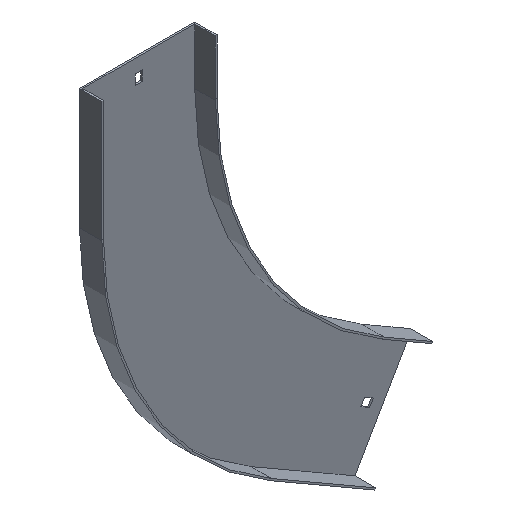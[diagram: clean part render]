
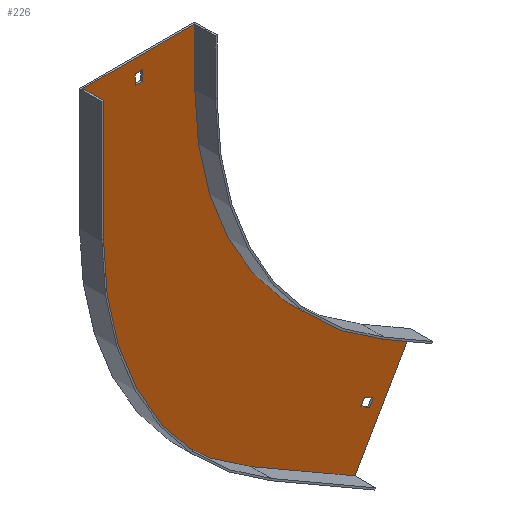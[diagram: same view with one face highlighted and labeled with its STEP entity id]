
A CAD part, isometric view. The second image highlights one B-rep face of the part: STEP entity #226.
In plain terms, the highlighted planar face has unit normal (0, -1, 0).
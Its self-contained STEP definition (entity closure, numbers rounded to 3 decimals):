
#18 = EDGE_LOOP ( 'NONE', ( #582, #485, #688, #633 ) ) ;
#21 = LINE ( 'NONE', #86, #220 ) ;
#25 = VECTOR ( 'NONE', #778, 1000. ) ;
#29 = LINE ( 'NONE', #653, #562 ) ;
#34 = CARTESIAN_POINT ( 'NONE',  ( -151.51, -1.5, -320.423 ) ) ;
#45 = EDGE_CURVE ( 'NONE', #723, #670, #439, .T. ) ;
#58 = CARTESIAN_POINT ( 'NONE',  ( -150., -1.5, -259.808 ) ) ;
#66 = ORIENTED_EDGE ( 'NONE', *, *, #45, .F. ) ;
#67 = ORIENTED_EDGE ( 'NONE', *, *, #146, .F. ) ;
#72 = ORIENTED_EDGE ( 'NONE', *, *, #125, .F. ) ;
#74 = VERTEX_POINT ( 'NONE', #444 ) ;
#76 = LINE ( 'NONE', #553, #861 ) ;
#86 = CARTESIAN_POINT ( 'NONE',  ( 0., -1.5, 29. ) ) ;
#88 = DIRECTION ( 'NONE',  ( 0., -1., 0. ) ) ;
#99 = EDGE_CURVE ( 'NONE', #172, #780, #635, .T. ) ;
#112 = DIRECTION ( 'NONE',  ( 0., 0., -1. ) ) ;
#117 = CIRCLE ( 'NONE', #233, 300. ) ;
#119 = CARTESIAN_POINT ( 'NONE',  ( 0., -1.5, 38. ) ) ;
#121 = CARTESIAN_POINT ( 'NONE',  ( -300., -1.5, 50. ) ) ;
#122 = ORIENTED_EDGE ( 'NONE', *, *, #99, .F. ) ;
#125 = EDGE_CURVE ( 'NONE', #542, #662, #773, .T. ) ;
#131 = DIRECTION ( 'NONE',  ( 0., 1., 0. ) ) ;
#139 = DIRECTION ( 'NONE',  ( 0.866, 0., -0.5 ) ) ;
#140 = EDGE_CURVE ( 'NONE', #699, #758, #330, .T. ) ;
#143 = LINE ( 'NONE', #427, #322 ) ;
#144 = EDGE_LOOP ( 'NONE', ( #158, #516, #214, #492 ) ) ;
#146 = EDGE_CURVE ( 'NONE', #670, #172, #314, .T. ) ;
#149 = CARTESIAN_POINT ( 'NONE',  ( -400., -1.5, -57.735 ) ) ;
#153 = DIRECTION ( 'NONE',  ( 1., 0., 0. ) ) ;
#158 = ORIENTED_EDGE ( 'NONE', *, *, #674, .F. ) ;
#170 = EDGE_CURVE ( 'NONE', #388, #802, #76, .T. ) ;
#172 = VERTEX_POINT ( 'NONE', #213 ) ;
#176 = CARTESIAN_POINT ( 'NONE',  ( -353.25, -1.5, 0. ) ) ;
#177 = VECTOR ( 'NONE', #495, 1000. ) ;
#213 = CARTESIAN_POINT ( 'NONE',  ( -156.699, -1.5, -371.41 ) ) ;
#214 = ORIENTED_EDGE ( 'NONE', *, *, #170, .F. ) ;
#219 = LINE ( 'NONE', #751, #685 ) ;
#220 = VECTOR ( 'NONE', #352, 1000. ) ;
#221 = CARTESIAN_POINT ( 'NONE',  ( -150., -1.5, -259.808 ) ) ;
#223 = DIRECTION ( 'NONE',  ( -0.866, 0., 0.5 ) ) ;
#226 = ADVANCED_FACE ( 'NONE', ( #442, #640, #283 ), #690, .T. ) ;
#233 = AXIS2_PLACEMENT_3D ( 'NONE', #309, #784, #581 ) ;
#237 = VERTEX_POINT ( 'NONE', #564 ) ;
#240 = CARTESIAN_POINT ( 'NONE',  ( -173.375, -1.5, -300.294 ) ) ;
#247 = LINE ( 'NONE', #240, #795 ) ;
#256 = EDGE_CURVE ( 'NONE', #74, #388, #432, .T. ) ;
#271 = EDGE_CURVE ( 'NONE', #758, #791, #29, .T. ) ;
#273 = DIRECTION ( 'NONE',  ( 0., 0., 1. ) ) ;
#280 = ORIENTED_EDGE ( 'NONE', *, *, #500, .F. ) ;
#283 = FACE_BOUND ( 'NONE', #18, .T. ) ;
#291 = VECTOR ( 'NONE', #845, 1000. ) ;
#309 = CARTESIAN_POINT ( 'NONE',  ( 0., -1.5, 0. ) ) ;
#314 = LINE ( 'NONE', #593, #291 ) ;
#316 = EDGE_CURVE ( 'NONE', #519, #331, #353, .T. ) ;
#322 = VECTOR ( 'NONE', #421, 1000. ) ;
#326 = ORIENTED_EDGE ( 'NONE', *, *, #316, .F. ) ;
#328 = CARTESIAN_POINT ( 'NONE',  ( -140.466, -1.5, -319.294 ) ) ;
#330 = LINE ( 'NONE', #119, #547 ) ;
#331 = VERTEX_POINT ( 'NONE', #397 ) ;
#352 = DIRECTION ( 'NONE',  ( -1., 0., 0. ) ) ;
#353 = LINE ( 'NONE', #149, #746 ) ;
#388 = VERTEX_POINT ( 'NONE', #34 ) ;
#394 = CARTESIAN_POINT ( 'NONE',  ( -143.716, -1.5, -324.923 ) ) ;
#397 = CARTESIAN_POINT ( 'NONE',  ( -400., -1.5, 50. ) ) ;
#405 = EDGE_LOOP ( 'NONE', ( #406, #326, #280, #122, #67, #66, #774, #72 ) ) ;
#406 = ORIENTED_EDGE ( 'NONE', *, *, #605, .F. ) ;
#421 = DIRECTION ( 'NONE',  ( 0.5, 0., 0.866 ) ) ;
#427 = CARTESIAN_POINT ( 'NONE',  ( 32.909, -1.5, -19. ) ) ;
#432 = LINE ( 'NONE', #823, #820 ) ;
#439 = LINE ( 'NONE', #221, #177 ) ;
#442 = FACE_BOUND ( 'NONE', #144, .T. ) ;
#444 = CARTESIAN_POINT ( 'NONE',  ( -148.26, -1.5, -314.794 ) ) ;
#459 = CARTESIAN_POINT ( 'NONE',  ( -300., -1.5, 0. ) ) ;
#476 = CARTESIAN_POINT ( 'NONE',  ( -250., -1.5, -317.543 ) ) ;
#485 = ORIENTED_EDGE ( 'NONE', *, *, #271, .T. ) ;
#491 = AXIS2_PLACEMENT_3D ( 'NONE', #545, #131, #536 ) ;
#492 = ORIENTED_EDGE ( 'NONE', *, *, #256, .F. ) ;
#495 = DIRECTION ( 'NONE',  ( 0.866, 0., -0.5 ) ) ;
#499 = DIRECTION ( 'NONE',  ( -0.5, 0., -0.866 ) ) ;
#500 = EDGE_CURVE ( 'NONE', #780, #519, #747, .T. ) ;
#516 = ORIENTED_EDGE ( 'NONE', *, *, #552, .F. ) ;
#519 = VERTEX_POINT ( 'NONE', #672 ) ;
#529 = DIRECTION ( 'NONE',  ( 0., 0., 1. ) ) ;
#536 = DIRECTION ( 'NONE',  ( 0., 0., -1. ) ) ;
#542 = VERTEX_POINT ( 'NONE', #121 ) ;
#544 = CARTESIAN_POINT ( 'NONE',  ( -346.75, -1.5, 29. ) ) ;
#545 = CARTESIAN_POINT ( 'NONE',  ( -100., -1.5, -57.735 ) ) ;
#547 = VECTOR ( 'NONE', #646, 1000. ) ;
#552 = EDGE_CURVE ( 'NONE', #802, #777, #143, .T. ) ;
#553 = CARTESIAN_POINT ( 'NONE',  ( -176.625, -1.5, -305.923 ) ) ;
#556 = CARTESIAN_POINT ( 'NONE',  ( 0., -1.5, 0. ) ) ;
#562 = VECTOR ( 'NONE', #112, 1000. ) ;
#564 = CARTESIAN_POINT ( 'NONE',  ( -353.25, -1.5, 29. ) ) ;
#566 = CARTESIAN_POINT ( 'NONE',  ( -156.699, -1.5, -371.41 ) ) ;
#572 = EDGE_CURVE ( 'NONE', #791, #237, #21, .T. ) ;
#575 = AXIS2_PLACEMENT_3D ( 'NONE', #556, #88, #623 ) ;
#581 = DIRECTION ( 'NONE',  ( 0., 0., -1. ) ) ;
#582 = ORIENTED_EDGE ( 'NONE', *, *, #140, .T. ) ;
#593 = CARTESIAN_POINT ( 'NONE',  ( -105.949, -1.5, -283.509 ) ) ;
#605 = EDGE_CURVE ( 'NONE', #331, #542, #219, .T. ) ;
#623 = DIRECTION ( 'NONE',  ( 0., 0., -1. ) ) ;
#633 = ORIENTED_EDGE ( 'NONE', *, *, #721, .T. ) ;
#635 = LINE ( 'NONE', #566, #668 ) ;
#640 = FACE_OUTER_BOUND ( 'NONE', #405, .T. ) ;
#643 = VECTOR ( 'NONE', #529, 1000. ) ;
#646 = DIRECTION ( 'NONE',  ( 1., 0., 0. ) ) ;
#652 = CARTESIAN_POINT ( 'NONE',  ( -353.25, -1.5, 38. ) ) ;
#653 = CARTESIAN_POINT ( 'NONE',  ( -346.75, -1.5, 0. ) ) ;
#657 = LINE ( 'NONE', #176, #643 ) ;
#662 = VERTEX_POINT ( 'NONE', #459 ) ;
#668 = VECTOR ( 'NONE', #223, 1000. ) ;
#670 = VERTEX_POINT ( 'NONE', #850 ) ;
#672 = CARTESIAN_POINT ( 'NONE',  ( -400., -1.5, -57.735 ) ) ;
#674 = EDGE_CURVE ( 'NONE', #777, #74, #247, .T. ) ;
#685 = VECTOR ( 'NONE', #153, 1000. ) ;
#688 = ORIENTED_EDGE ( 'NONE', *, *, #572, .T. ) ;
#690 = PLANE ( 'NONE',  #575 ) ;
#699 = VERTEX_POINT ( 'NONE', #652 ) ;
#708 = EDGE_CURVE ( 'NONE', #662, #723, #117, .T. ) ;
#721 = EDGE_CURVE ( 'NONE', #237, #699, #657, .T. ) ;
#723 = VERTEX_POINT ( 'NONE', #58 ) ;
#746 = VECTOR ( 'NONE', #273, 1000. ) ;
#747 = CIRCLE ( 'NONE', #491, 300. ) ;
#751 = CARTESIAN_POINT ( 'NONE',  ( -401.5, -1.5, 50. ) ) ;
#758 = VERTEX_POINT ( 'NONE', #803 ) ;
#773 = LINE ( 'NONE', #857, #25 ) ;
#774 = ORIENTED_EDGE ( 'NONE', *, *, #708, .F. ) ;
#777 = VERTEX_POINT ( 'NONE', #328 ) ;
#778 = DIRECTION ( 'NONE',  ( 0., 0., -1. ) ) ;
#780 = VERTEX_POINT ( 'NONE', #476 ) ;
#784 = DIRECTION ( 'NONE',  ( 0., -1., 0. ) ) ;
#790 = DIRECTION ( 'NONE',  ( -0.866, 0., 0.5 ) ) ;
#791 = VERTEX_POINT ( 'NONE', #544 ) ;
#795 = VECTOR ( 'NONE', #790, 1000. ) ;
#802 = VERTEX_POINT ( 'NONE', #394 ) ;
#803 = CARTESIAN_POINT ( 'NONE',  ( -346.75, -1.5, 38. ) ) ;
#820 = VECTOR ( 'NONE', #499, 1000. ) ;
#823 = CARTESIAN_POINT ( 'NONE',  ( 25.115, -1.5, -14.5 ) ) ;
#845 = DIRECTION ( 'NONE',  ( -0.5, 0., -0.866 ) ) ;
#850 = CARTESIAN_POINT ( 'NONE',  ( -106.699, -1.5, -284.808 ) ) ;
#857 = CARTESIAN_POINT ( 'NONE',  ( -300., -1.5, 50. ) ) ;
#861 = VECTOR ( 'NONE', #139, 1000. ) ;
